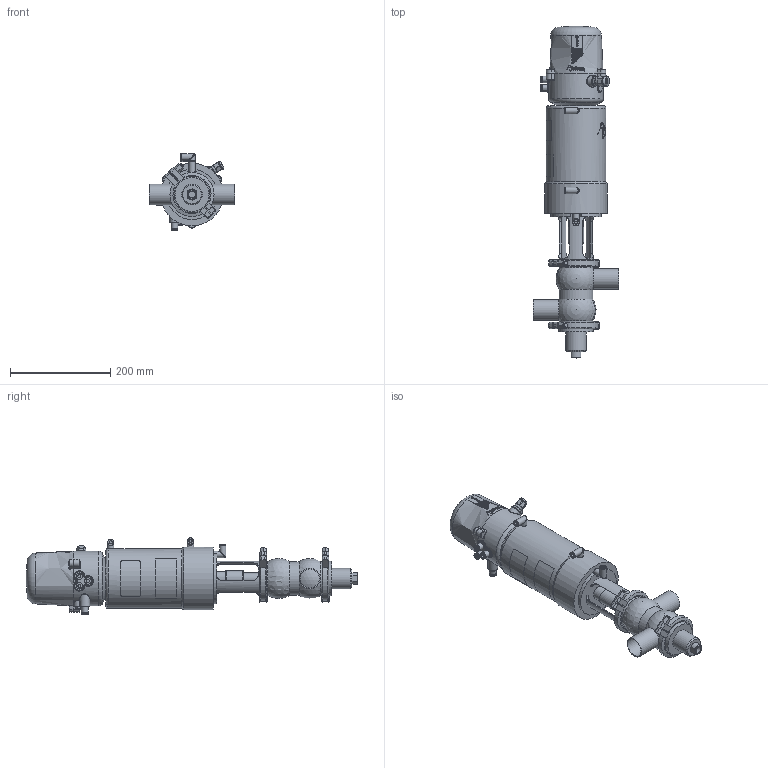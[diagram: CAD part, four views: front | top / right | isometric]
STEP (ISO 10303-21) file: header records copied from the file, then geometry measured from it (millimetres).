
FILE_DESCRIPTION (( 'STEP AP214' ), '1' );
FILE_NAME ('INNOVA P DC-180 W DIN 040 & C-TOP S_10.250.16.0019.STEP', '2024-08-08T12:20:37', ( '' ), ( '' ), 'SwSTEP 2.0', 'SolidWorks 2023', '' );
FILE_SCHEMA (( 'AUTOMOTIVE_DESIGN' ));
Length unit declared in the file: millimetre
Products named in the file (7): 10.426.15.0001_C-TOP S - 3 EV; 10.250.15.0002_Type P T1; 10.240.15.0001_DN 040; 10.250.15.0001_DIN 040; 10.250.15.0003_DN 040; INNOVA P DC-180 W DIN 040 & C-TOP S_10.250.16.0019; 10.251.15.0011_DIN 040
Assembly tree (7 placements, depth 2):
  INNOVA P DC-180 W DIN 040 & C-TOP S_10.250.16.0019
    10.250.15.0001_DIN 040
    10.250.15.0002_Type P T1
    10.426.15.0001_C-TOP S - 3 EV
    10.251.15.0011_DIN 040
    10.240.15.0001_DN 040  x2
    10.250.15.0003_DN 040
Bounding box: 170 x 662 x 152 mm (x, y, z)
Volume: 4771772.5 mm3; surface area: 356432.1 mm2
Topology: 7 solids, 7 shells, 1203 faces, 2895 edges, 1923 vertices
Faces by surface type: plane 413, cylinder 383, cone 203, bspline 163, torus 33, sphere 8
Full cylindrical faces by diameter (mm): 0.371 x17, 0.512 x16, 0.658 x16, 0.795 x16, 0.94 x15, 1.098 x15, 1.241 x13, 1.382 x13, 1.523 x11, 1.669 x10, 2.201 x1, 4.2 x2, 5 x1, 5.5 x2, 6 x4, 6.15 x3, 8 x5, 10 x1, 10.5 x3, 11 x4, 12.5 x9, 13 x6, 13.5 x2, 14 x1, 17 x3, 20 x2, 22 x2, 23 x1, 28 x1, 31.5 x1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
Entity records: 58983 total; most frequent: CARTESIAN_POINT 27666, ORIENTED_EDGE 4608, DIRECTION 3749, EDGE_CURVE 2304, VERTEX_POINT 1641, EDGE_LOOP 1621, AXIS2_PLACEMENT_3D 1541, FACE_OUTER_BOUND 1370
